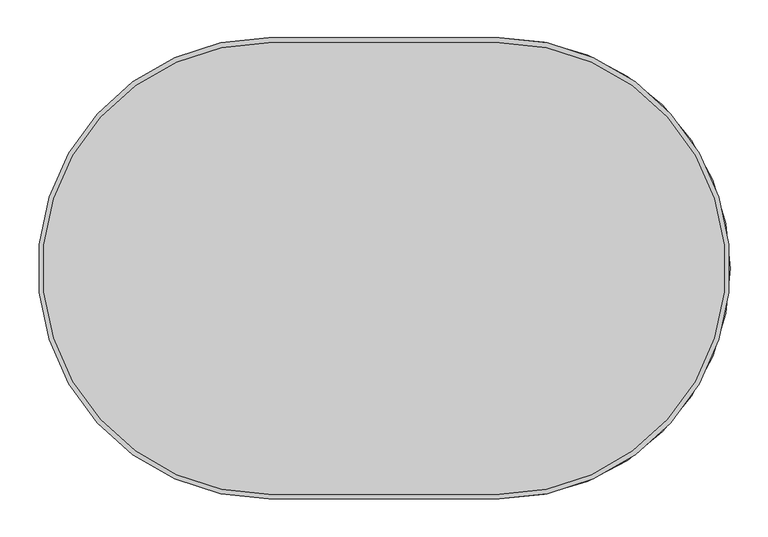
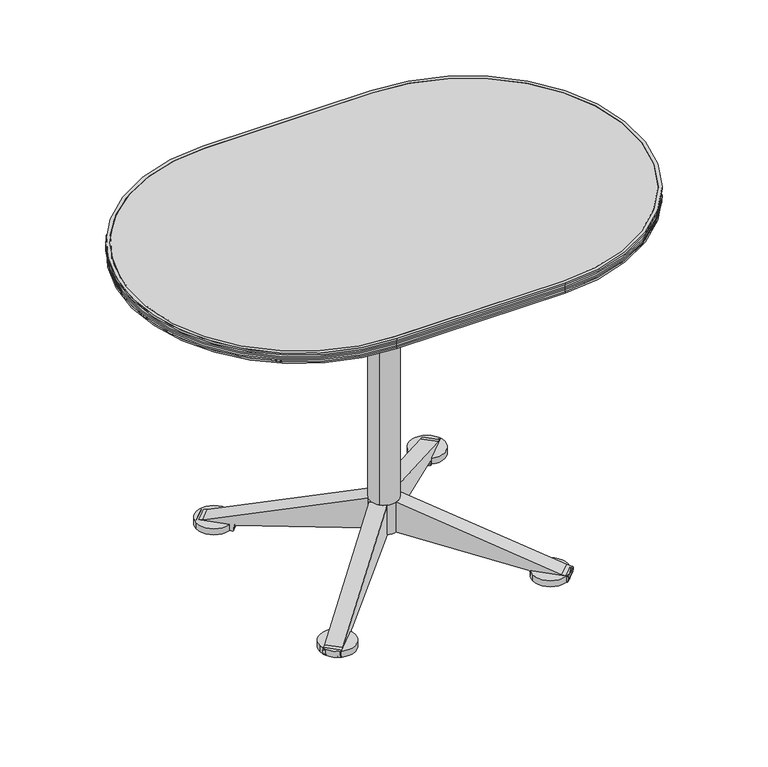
"""IFC4 building model written with IfcOpenShell, lengths in millimetres: furniture geometry, Coalesse_AM_Table_Conference_Ballet_Side : Racetrack - Glide."""

from ifc_helpers import new_model, si_unit, point, frame, frame_2d, origin, origin_with_axes, place, context, project, spatial, polyline, circle_curve, trimmed, segment, composite_curve, outline, extrude, source, transform, mapped, element, save
from ifc_brep_helpers import plane_surface, cylinder_surface, revolved_surface, advanced_brep


def furniture_3e3b4661(model_context):
    return source(origin(), model_context, "Body", "SolidModel", [
        extrude(outline(composite_curve([segment(polyline([(-37.2834365, 26.9246599), (-26.8661847, 37.3419116)]), True, "CONTINUOUS"), segment(trimmed(circle_curve(frame_2d((0.0745836, 10.4011432)), 38.1), [point((-26.8661847, 37.3419116))], [point((27.015352, 37.3419116))], False, "CARTESIAN"), True, "CONTINUOUS"), segment(polyline([(27.015352, 37.3419116), (38.9313594, 25.4259042)]), True, "CONTINUOUS"), segment(trimmed(circle_curve(frame_2d((13.4893466, -0.0161085)), 35.9804395), [point((38.9313594, 25.4259042))], [point((38.9313594, -25.4581212))], False, "CARTESIAN"), True, "CONTINUOUS"), segment(polyline([(38.9313594, -25.4581212), (27.015352, -37.3741286)]), True, "CONTINUOUS"), segment(trimmed(circle_curve(frame_2d((0.0745836, -10.4333602)), 38.1), [point((27.015352, -37.3741286))], [point((-26.8661847, -37.3741286))], False, "CARTESIAN"), True, "CONTINUOUS"), segment(polyline([(-26.8661847, -37.3741286), (-37.2834365, -26.9568769)]), True, "CONTINUOUS"), segment(trimmed(circle_curve(frame_2d((-10.3426681, -0.0161085)), 38.1), [point((-37.2834365, -26.9568769))], [point((-37.2834365, 26.9246599))], False, "CARTESIAN"), True, "CONTINUOUS")], self_intersect=False)), frame((0.0, 0.0, 536.3169247), z_axis=(0.0, 0.0, 1.0), x_axis=(1.0, 0.0, 0.0)), (0.0, 0.0, 1.0), 50.3081696),
        extrude(outline(composite_curve([segment(polyline([(-81.1409418, 49.3084633), (-49.5692956, 80.8801095)]), True, "CONTINUOUS"), segment(trimmed(circle_curve(frame_2d((0.0, 156.1108358)), 90.0931587), [point((-49.5692956, 80.8801095))], [point((49.871233, 81.0799264))], True, "CARTESIAN"), True, "CONTINUOUS"), segment(polyline([(49.871233, 81.0799264), (81.1309866, 49.8201728)]), True, "CONTINUOUS"), segment(trimmed(circle_curve(frame_2d((153.3620811, 0.0)), 87.7461145), [point((81.1309866, 49.8201728))], [point((81.7629451, -50.7241989))], True, "CARTESIAN"), True, "CONTINUOUS"), segment(polyline([(81.7629451, -50.7241989), (50.5881651, -81.8989789)]), True, "CONTINUOUS"), segment(trimmed(circle_curve(frame_2d((0.0, -154.7295322)), 88.6761069), [point((50.5881651, -81.8989789))], [point((-51.0893198, -82.2496499))], True, "CARTESIAN"), True, "CONTINUOUS"), segment(polyline([(-51.0893198, -82.2496499), (-82.3248918, -51.014078)]), True, "CONTINUOUS"), segment(trimmed(circle_curve(frame_2d((-153.9959305, 0.0)), 87.9725749), [point((-82.3248918, -51.014078))], [point((-81.1409418, 49.3084633))], True, "CARTESIAN"), True, "CONTINUOUS")], self_intersect=False)), frame((0.0, 0.0, 563.948073), z_axis=(0.0, 0.0, 1.0), x_axis=(1.0, 0.0, 0.0)), (0.0, 0.0, 1.0), 22.6770213),
        extrude(outline(composite_curve([segment(polyline([(114.3, 0.0), (115.2263736, -5.2537258)]), True, "CONTINUOUS"), segment(trimmed(circle_curve(frame_2d((109.4080133, -6.2796597)), 5.9081179), [point((115.2263736, -5.2537258))], [point((112.3666622, -11.3935872))], False, "CARTESIAN"), True, "CONTINUOUS"), segment(trimmed(circle_curve(frame_2d((-123.1481635, 395.6860679)), 470.2989248), [point((112.3666622, -11.3935872))], [point((-41.1216208, -67.404339))], False, "CARTESIAN"), True, "CONTINUOUS"), segment(trimmed(circle_curve(frame_2d((-123.1481635, 395.6860679)), 470.2989248), [point((-41.1216208, -67.404339))], [point((-66.3652264, -71.172344))], False, "CARTESIAN"), True, "CONTINUOUS"), segment(trimmed(circle_curve(frame_2d((-64.5887584, -85.7781231)), 14.7134164), [point((-66.3652264, -71.172344))], [point((-76.9601862, -77.8136775))], True, "CARTESIAN"), True, "CONTINUOUS"), segment(trimmed(circle_curve(frame_2d((-64.5887584, -85.7781231)), 14.7134164), [point((-76.9601862, -77.8136775))], [point((-79.0764227, -88.3456516))], True, "CARTESIAN"), True, "CONTINUOUS"), segment(trimmed(circle_curve(frame_2d((-82.4829244, -88.9493576)), 3.4595829), [point((-79.0764227, -88.3456516))], [point((-81.6450497, -92.3059452))], False, "CARTESIAN"), True, "CONTINUOUS"), segment(polyline([(-81.6450497, -92.3059452), (-160.9573766, -92.3059452)]), True, "CONTINUOUS"), segment(trimmed(circle_curve(frame_2d((-160.119502, -88.9493576)), 3.4595829), [point((-160.9573766, -92.3059452))], [point((-163.5260036, -88.3456516))], False, "CARTESIAN"), True, "CONTINUOUS"), segment(trimmed(circle_curve(frame_2d((-178.0136679, -85.7781231)), 14.7134164), [point((-163.5260036, -88.3456516))], [point((-165.6422401, -77.8136775))], True, "CARTESIAN"), True, "CONTINUOUS"), segment(trimmed(circle_curve(frame_2d((-178.0136679, -85.7781231)), 14.7134164), [point((-165.6422401, -77.8136775))], [point((-176.2372, -71.172344))], True, "CARTESIAN"), True, "CONTINUOUS"), segment(trimmed(circle_curve(frame_2d((-119.4542628, 395.6860679)), 470.2989248), [point((-176.2372, -71.172344))], [point((-201.4808056, -67.404339))], False, "CARTESIAN"), True, "CONTINUOUS"), segment(trimmed(circle_curve(frame_2d((-119.4542628, 395.6860679)), 470.2989248), [point((-201.4808056, -67.404339))], [point((-354.9690885, -11.3935872))], False, "CARTESIAN"), True, "CONTINUOUS"), segment(trimmed(circle_curve(frame_2d((-352.0104397, -6.2796597)), 5.9081179), [point((-354.9690885, -11.3935872))], [point((-357.8288, -5.2537258))], False, "CARTESIAN"), True, "CONTINUOUS"), segment(polyline([(-357.8288, -5.2537258), (-356.9024264, 0.0), (-242.6024263, 0.0)]), True, "CONTINUOUS"), segment(trimmed(circle_curve(frame_2d((-184.587638, 17.529313)), 60.6052183), [point((-242.6024263, 0.0))], [point((-195.8254097, -42.0249058))], True, "CARTESIAN"), True, "CONTINUOUS"), segment(trimmed(circle_curve(frame_2d((-133.7603939, 286.8867003)), 334.7161645), [point((-195.8254097, -42.0249058))], [point((-152.4418907, -47.3077229))], True, "CARTESIAN"), True, "CONTINUOUS"), segment(trimmed(circle_curve(frame_2d((-151.7916573, -35.6756582)), 11.6502245), [point((-152.4418907, -47.3077229))], [point((-142.023608, -42.0249058))], True, "CARTESIAN"), True, "CONTINUOUS"), segment(polyline([(-142.023608, -42.0249058), (-100.5788184, -42.0249058)]), True, "CONTINUOUS"), segment(trimmed(circle_curve(frame_2d((-90.810769, -35.6756582)), 11.6502245), [point((-100.5788184, -42.0249058))], [point((-90.1605356, -47.3077229))], True, "CARTESIAN"), True, "CONTINUOUS"), segment(trimmed(circle_curve(frame_2d((-108.8420324, 286.8867003)), 334.7161645), [point((-90.1605356, -47.3077229))], [point((-46.7770167, -42.0249058))], True, "CARTESIAN"), True, "CONTINUOUS"), segment(trimmed(circle_curve(frame_2d((-58.0147883, 17.529313)), 60.6052183), [point((-46.7770167, -42.0249058))], [point((0.0, 0.0))], True, "CARTESIAN"), True, "CONTINUOUS"), segment(polyline([(0.0, 0.0), (114.3, 0.0)]), True, "CONTINUOUS")], self_intersect=False)), frame((-101.4283173, 70.1175035, 628.65), z_axis=(0.7071067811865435, 0.7071067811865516, 0.0), x_axis=(-0.7071067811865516, 0.7071067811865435, 0.0)), (0.0, 0.0, 1.0), 44.2801776),
        extrude(outline(composite_curve([segment(polyline([(114.3, 0.0), (115.2263736, -5.2537258)]), True, "CONTINUOUS"), segment(trimmed(circle_curve(frame_2d((109.4080133, -6.2796597)), 5.9081179), [point((115.2263736, -5.2537258))], [point((112.3666622, -11.3935872))], False, "CARTESIAN"), True, "CONTINUOUS"), segment(trimmed(circle_curve(frame_2d((-123.1481635, 395.6860679)), 470.2989248), [point((112.3666622, -11.3935872))], [point((-41.1216208, -67.404339))], False, "CARTESIAN"), True, "CONTINUOUS"), segment(trimmed(circle_curve(frame_2d((-123.1481635, 395.6860679)), 470.2989248), [point((-41.1216208, -67.404339))], [point((-66.3652264, -71.172344))], False, "CARTESIAN"), True, "CONTINUOUS"), segment(trimmed(circle_curve(frame_2d((-64.5887584, -85.7781231)), 14.7134164), [point((-66.3652264, -71.172344))], [point((-76.9601862, -77.8136775))], True, "CARTESIAN"), True, "CONTINUOUS"), segment(trimmed(circle_curve(frame_2d((-64.5887584, -85.7781231)), 14.7134164), [point((-76.9601862, -77.8136775))], [point((-79.0764227, -88.3456516))], True, "CARTESIAN"), True, "CONTINUOUS"), segment(trimmed(circle_curve(frame_2d((-82.4829244, -88.9493576)), 3.4595829), [point((-79.0764227, -88.3456516))], [point((-81.6450497, -92.3059452))], False, "CARTESIAN"), True, "CONTINUOUS"), segment(polyline([(-81.6450497, -92.3059452), (-160.9573766, -92.3059452)]), True, "CONTINUOUS"), segment(trimmed(circle_curve(frame_2d((-160.119502, -88.9493576)), 3.4595829), [point((-160.9573766, -92.3059452))], [point((-163.5260036, -88.3456516))], False, "CARTESIAN"), True, "CONTINUOUS"), segment(trimmed(circle_curve(frame_2d((-178.0136679, -85.7781231)), 14.7134164), [point((-163.5260036, -88.3456516))], [point((-165.6422401, -77.8136775))], True, "CARTESIAN"), True, "CONTINUOUS"), segment(trimmed(circle_curve(frame_2d((-178.0136679, -85.7781231)), 14.7134164), [point((-165.6422401, -77.8136775))], [point((-176.2372, -71.172344))], True, "CARTESIAN"), True, "CONTINUOUS"), segment(trimmed(circle_curve(frame_2d((-119.4542628, 395.6860679)), 470.2989248), [point((-176.2372, -71.172344))], [point((-201.4808056, -67.404339))], False, "CARTESIAN"), True, "CONTINUOUS"), segment(trimmed(circle_curve(frame_2d((-119.4542628, 395.6860679)), 470.2989248), [point((-201.4808056, -67.404339))], [point((-354.9690885, -11.3935872))], False, "CARTESIAN"), True, "CONTINUOUS"), segment(trimmed(circle_curve(frame_2d((-352.0104397, -6.2796597)), 5.9081179), [point((-354.9690885, -11.3935872))], [point((-357.8288, -5.2537258))], False, "CARTESIAN"), True, "CONTINUOUS"), segment(polyline([(-357.8288, -5.2537258), (-356.9024264, 0.0), (-242.6024263, 0.0)]), True, "CONTINUOUS"), segment(trimmed(circle_curve(frame_2d((-184.587638, 17.529313)), 60.6052183), [point((-242.6024263, 0.0))], [point((-195.8254097, -42.0249058))], True, "CARTESIAN"), True, "CONTINUOUS"), segment(trimmed(circle_curve(frame_2d((-133.7603939, 286.8867003)), 334.7161645), [point((-195.8254097, -42.0249058))], [point((-152.4418907, -47.3077229))], True, "CARTESIAN"), True, "CONTINUOUS"), segment(trimmed(circle_curve(frame_2d((-151.7916573, -35.6756582)), 11.6502245), [point((-152.4418907, -47.3077229))], [point((-142.023608, -42.0249058))], True, "CARTESIAN"), True, "CONTINUOUS"), segment(polyline([(-142.023608, -42.0249058), (-100.5788184, -42.0249058)]), True, "CONTINUOUS"), segment(trimmed(circle_curve(frame_2d((-90.810769, -35.6756582)), 11.6502245), [point((-100.5788184, -42.0249058))], [point((-90.1605356, -47.3077229))], True, "CARTESIAN"), True, "CONTINUOUS"), segment(trimmed(circle_curve(frame_2d((-108.8420324, 286.8867003)), 334.7161645), [point((-90.1605356, -47.3077229))], [point((-46.7770167, -42.0249058))], True, "CARTESIAN"), True, "CONTINUOUS"), segment(trimmed(circle_curve(frame_2d((-58.0147883, 17.529313)), 60.6052183), [point((-46.7770167, -42.0249058))], [point((0.0, 0.0))], True, "CARTESIAN"), True, "CONTINUOUS"), segment(polyline([(0.0, 0.0), (114.3, 0.0)]), True, "CONTINUOUS")], self_intersect=False)), frame((-70.1175035, -101.4283173, 628.65), z_axis=(-0.7071067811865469, 0.7071067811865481, 0.0), x_axis=(-0.7071067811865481, -0.7071067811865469, 0.0)), (0.0, 0.0, 1.0), 44.2801776),
        extrude(outline(composite_curve([segment(trimmed(circle_curve(frame_2d((-194.715793, 197.3207687)), 31.75), [point((-226.465793, 197.3207687))], [point((-162.965793, 197.3207687))], False, "CARTESIAN"), True, "CONTINUOUS"), segment(trimmed(circle_curve(frame_2d((-194.715793, 197.3207687)), 31.75), [point((-162.965793, 197.3207687))], [point((-226.465793, 197.3207687))], False, "CARTESIAN"), True, "CONTINUOUS")], self_intersect=False)), frame((0.0, 0.0, 4.2904479), z_axis=(0.0, 0.0, 1.0), x_axis=(1.0, 0.0, 0.0)), (0.0, 0.0, 1.0), 11.3833531),
        extrude(outline(composite_curve([segment(trimmed(circle_curve(frame_2d((191.7194605, 196.5270187)), 31.75), [point((159.9694605, 196.5270187))], [point((223.4694605, 196.5270187))], False, "CARTESIAN"), True, "CONTINUOUS"), segment(trimmed(circle_curve(frame_2d((191.7194605, 196.5270187)), 31.75), [point((223.4694605, 196.5270187))], [point((159.9694605, 196.5270187))], False, "CARTESIAN"), True, "CONTINUOUS")], self_intersect=False)), frame((0.0, 0.0, 4.2904479), z_axis=(0.0, 0.0, 1.0), x_axis=(1.0, 0.0, 0.0)), (0.0, 0.0, 1.0), 11.3833531),
        extrude(outline(composite_curve([segment(trimmed(circle_curve(frame_2d((-194.715793, -191.2787692)), 31.75), [point((-226.465793, -191.2787692))], [point((-162.965793, -191.2787692))], False, "CARTESIAN"), True, "CONTINUOUS"), segment(trimmed(circle_curve(frame_2d((-194.715793, -191.2787692)), 31.75), [point((-162.965793, -191.2787692))], [point((-226.465793, -191.2787692))], False, "CARTESIAN"), True, "CONTINUOUS")], self_intersect=False)), frame((0.0, 0.0, 4.2904479), z_axis=(0.0, 0.0, 1.0), x_axis=(1.0, 0.0, 0.0)), (0.0, 0.0, 1.0), 11.3833531),
        extrude(outline(composite_curve([segment(trimmed(circle_curve(frame_2d((191.7194605, -190.4850192)), 31.75), [point((159.9694605, -190.4850192))], [point((223.4694605, -190.4850192))], False, "CARTESIAN"), True, "CONTINUOUS"), segment(trimmed(circle_curve(frame_2d((191.7194605, -190.4850192)), 31.75), [point((223.4694605, -190.4850192))], [point((159.9694605, -190.4850192))], False, "CARTESIAN"), True, "CONTINUOUS")], self_intersect=False)), frame((0.0, 0.0, 4.2904479), z_axis=(0.0, 0.0, 1.0), x_axis=(1.0, 0.0, 0.0)), (0.0, 0.0, 1.0), 11.3833531),
        extrude(outline(composite_curve([segment(polyline([(-57.749273, 0.0), (0.0, 0.0), (-90.9931074, -269.8641919), (-92.3030079, -279.1846177)]), True, "CONTINUOUS"), segment(trimmed(circle_curve(frame_2d((-93.9206951, -278.9572666)), 1.6335852), [point((-92.3030079, -279.1846177))], [point((-93.8206014, -280.5877823))], False, "CARTESIAN"), True, "CONTINUOUS"), segment(trimmed(circle_curve(frame_2d((-95.8523928, -247.4901147)), 33.1599725), [point((-93.8206014, -280.5877823))], [point((-101.682402, -280.1335639))], False, "CARTESIAN"), True, "CONTINUOUS"), segment(trimmed(circle_curve(frame_2d((-101.2796868, -277.8786768)), 2.2905666), [point((-101.682402, -280.1335639))], [point((-103.5674671, -277.7657306))], False, "CARTESIAN"), True, "CONTINUOUS"), segment(polyline([(-103.5674671, -277.7657306), (-103.5674671, -222.4322812)]), True, "CONTINUOUS"), segment(trimmed(circle_curve(frame_2d((-100.6154331, -221.9840334)), 2.9858719), [point((-103.5674671, -222.4322812))], [point((-100.2998684, -219.0148838))], False, "CARTESIAN"), True, "CONTINUOUS"), segment(trimmed(circle_curve(frame_2d((-98.3053249, -200.2482144)), 18.872363), [point((-100.2998684, -219.0148838))], [point((-94.5016021, -218.7332835))], True, "CARTESIAN"), True, "CONTINUOUS"), segment(trimmed(circle_curve(frame_2d((-95.1495986, -215.5841949)), 3.2150673), [point((-94.5016021, -218.7332835))], [point((-91.9741141, -216.0871422))], True, "CARTESIAN"), True, "CONTINUOUS"), segment(polyline([(-91.9741141, -216.0871422), (-57.749273, 0.0)]), True, "CONTINUOUS")], self_intersect=False)), frame((-23.5273141, 7.7834997, 107.857915), z_axis=(0.7071067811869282, 0.707106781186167, 0.0), x_axis=(0.0, 0.0, 1.0)), (0.0, 0.0, 1.0), 29.2174476),
        extrude(outline(composite_curve([segment(polyline([(-57.749273, 44.2801775), (-91.9741141, 260.3673198)]), True, "CONTINUOUS"), segment(trimmed(circle_curve(frame_2d((-95.1495986, 259.8643724)), 3.2150673), [point((-91.9741141, 260.3673198))], [point((-94.5016021, 263.013461))], True, "CARTESIAN"), True, "CONTINUOUS"), segment(trimmed(circle_curve(frame_2d((-98.3053249, 244.5283919)), 18.872363), [point((-94.5016021, 263.013461))], [point((-100.2998684, 263.2950613))], True, "CARTESIAN"), True, "CONTINUOUS"), segment(trimmed(circle_curve(frame_2d((-100.6154331, 266.2642109)), 2.9858719), [point((-100.2998684, 263.2950613))], [point((-103.5674671, 266.7124587))], False, "CARTESIAN"), True, "CONTINUOUS"), segment(polyline([(-103.5674671, 266.7124587), (-103.5674671, 322.0459081)]), True, "CONTINUOUS"), segment(trimmed(circle_curve(frame_2d((-101.2796868, 322.1588543)), 2.2905666), [point((-103.5674671, 322.0459081))], [point((-101.682402, 324.4137415))], False, "CARTESIAN"), True, "CONTINUOUS"), segment(trimmed(circle_curve(frame_2d((-95.8523928, 291.7702923)), 33.1599725), [point((-101.682402, 324.4137415))], [point((-93.8206014, 324.8679598))], False, "CARTESIAN"), True, "CONTINUOUS"), segment(trimmed(circle_curve(frame_2d((-93.9206951, 323.2374442)), 1.6335852), [point((-93.8206014, 324.8679598))], [point((-92.3030079, 323.4647953))], False, "CARTESIAN"), True, "CONTINUOUS"), segment(polyline([(-92.3030079, 323.4647953), (-90.9931074, 314.1443694), (0.0, 44.2801775), (-57.749273, 44.2801775)]), True, "CONTINUOUS")], self_intersect=False)), frame((-23.5273141, 7.7834997, 107.857915), z_axis=(0.7071067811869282, 0.707106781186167, 0.0), x_axis=(0.0, 0.0, 1.0)), (0.0, 0.0, 1.0), 29.2174476),
        extrude(outline(composite_curve([segment(polyline([(-57.749273, 0.0), (0.0, 0.0), (-90.9931074, -269.8641919), (-92.3030079, -279.1846177)]), True, "CONTINUOUS"), segment(trimmed(circle_curve(frame_2d((-93.9206951, -278.9572666)), 1.6335852), [point((-92.3030079, -279.1846177))], [point((-93.8206014, -280.5877823))], False, "CARTESIAN"), True, "CONTINUOUS"), segment(trimmed(circle_curve(frame_2d((-95.8523928, -247.4901147)), 33.1599725), [point((-93.8206014, -280.5877823))], [point((-101.682402, -280.1335639))], False, "CARTESIAN"), True, "CONTINUOUS"), segment(trimmed(circle_curve(frame_2d((-101.2796868, -277.8786768)), 2.2905666), [point((-101.682402, -280.1335639))], [point((-103.5674671, -277.7657306))], False, "CARTESIAN"), True, "CONTINUOUS"), segment(polyline([(-103.5674671, -277.7657306), (-103.5674671, -222.4322812)]), True, "CONTINUOUS"), segment(trimmed(circle_curve(frame_2d((-100.6154331, -221.9840334)), 2.9858719), [point((-103.5674671, -222.4322812))], [point((-100.2998684, -219.0148838))], False, "CARTESIAN"), True, "CONTINUOUS"), segment(trimmed(circle_curve(frame_2d((-98.3053249, -200.2482144)), 18.872363), [point((-100.2998684, -219.0148838))], [point((-94.5016021, -218.7332835))], True, "CARTESIAN"), True, "CONTINUOUS"), segment(trimmed(circle_curve(frame_2d((-95.1495986, -215.5841949)), 3.2150673), [point((-94.5016021, -218.7332835))], [point((-91.9741141, -216.0871422))], True, "CARTESIAN"), True, "CONTINUOUS"), segment(polyline([(-91.9741141, -216.0871422), (-57.749273, 0.0)]), True, "CONTINUOUS")], self_intersect=False)), frame((-7.7834997, -23.5273141, 107.857915), z_axis=(-0.7071067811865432, 0.7071067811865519, 0.0), x_axis=(0.0, 0.0, 1.0)), (0.0, 0.0, 1.0), 29.2174476),
        extrude(outline(composite_curve([segment(polyline([(-57.749273, 44.2801775), (-91.9741141, 260.3673198)]), True, "CONTINUOUS"), segment(trimmed(circle_curve(frame_2d((-95.1495986, 259.8643724)), 3.2150673), [point((-91.9741141, 260.3673198))], [point((-94.5016021, 263.013461))], True, "CARTESIAN"), True, "CONTINUOUS"), segment(trimmed(circle_curve(frame_2d((-98.3053249, 244.5283919)), 18.872363), [point((-94.5016021, 263.013461))], [point((-100.2998684, 263.2950613))], True, "CARTESIAN"), True, "CONTINUOUS"), segment(trimmed(circle_curve(frame_2d((-100.6154331, 266.2642109)), 2.9858719), [point((-100.2998684, 263.2950613))], [point((-103.5674671, 266.7124587))], False, "CARTESIAN"), True, "CONTINUOUS"), segment(polyline([(-103.5674671, 266.7124587), (-103.5674671, 322.0459081)]), True, "CONTINUOUS"), segment(trimmed(circle_curve(frame_2d((-101.2796868, 322.1588543)), 2.2905666), [point((-103.5674671, 322.0459081))], [point((-101.682402, 324.4137415))], False, "CARTESIAN"), True, "CONTINUOUS"), segment(trimmed(circle_curve(frame_2d((-95.8523928, 291.7702923)), 33.1599725), [point((-101.682402, 324.4137415))], [point((-93.8206014, 324.8679598))], False, "CARTESIAN"), True, "CONTINUOUS"), segment(trimmed(circle_curve(frame_2d((-93.9206951, 323.2374442)), 1.6335852), [point((-93.8206014, 324.8679598))], [point((-92.3030079, 323.4647953))], False, "CARTESIAN"), True, "CONTINUOUS"), segment(polyline([(-92.3030079, 323.4647953), (-90.9931074, 314.1443694), (0.0, 44.2801775), (-57.749273, 44.2801775)]), True, "CONTINUOUS")], self_intersect=False)), frame((-7.7834997, -23.5273141, 107.857915), z_axis=(-0.7071067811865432, 0.7071067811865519, 0.0), x_axis=(0.0, 0.0, 1.0)), (0.0, 0.0, 1.0), 29.2174476),
        extrude(outline(composite_curve([segment(polyline([(-57.749273, 0.0), (0.0, 0.0), (-90.9931074, -269.8641919), (-92.3030079, -279.1846177)]), True, "CONTINUOUS"), segment(trimmed(circle_curve(frame_2d((-93.9206951, -278.9572666)), 1.6335852), [point((-92.3030079, -279.1846177))], [point((-93.8206014, -280.5877823))], False, "CARTESIAN"), True, "CONTINUOUS"), segment(trimmed(circle_curve(frame_2d((-95.8523928, -247.4901147)), 33.1599725), [point((-93.8206014, -280.5877823))], [point((-101.682402, -280.1335639))], False, "CARTESIAN"), True, "CONTINUOUS"), segment(trimmed(circle_curve(frame_2d((-101.2796868, -277.8786768)), 2.2905666), [point((-101.682402, -280.1335639))], [point((-103.5674671, -277.7657306))], False, "CARTESIAN"), True, "CONTINUOUS"), segment(polyline([(-103.5674671, -277.7657306), (-103.5674671, -222.4322812)]), True, "CONTINUOUS"), segment(trimmed(circle_curve(frame_2d((-100.6154331, -221.9840334)), 2.9858719), [point((-103.5674671, -222.4322812))], [point((-100.2998684, -219.0148838))], False, "CARTESIAN"), True, "CONTINUOUS"), segment(trimmed(circle_curve(frame_2d((-98.3053249, -200.2482144)), 18.872363), [point((-100.2998684, -219.0148838))], [point((-94.5016021, -218.7332835))], True, "CARTESIAN"), True, "CONTINUOUS"), segment(trimmed(circle_curve(frame_2d((-95.1495986, -215.5841949)), 3.2150673), [point((-94.5016021, -218.7332835))], [point((-91.9741141, -216.0871422))], True, "CARTESIAN"), True, "CONTINUOUS"), segment(polyline([(-91.9741141, -216.0871422), (-57.749273, 0.0)]), True, "CONTINUOUS")], self_intersect=False)), frame((-23.5273141, 7.7834997, 107.857915), z_axis=(0.7071067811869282, 0.707106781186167, 0.0), x_axis=(0.0, 0.0, 1.0)), (0.0, 0.0, 1.0), 29.2174476),
        extrude(outline(composite_curve([segment(polyline([(-57.749273, 44.2801775), (-91.9741141, 260.3673198)]), True, "CONTINUOUS"), segment(trimmed(circle_curve(frame_2d((-95.1495986, 259.8643724)), 3.2150673), [point((-91.9741141, 260.3673198))], [point((-94.5016021, 263.013461))], True, "CARTESIAN"), True, "CONTINUOUS"), segment(trimmed(circle_curve(frame_2d((-98.3053249, 244.5283919)), 18.872363), [point((-94.5016021, 263.013461))], [point((-100.2998684, 263.2950613))], True, "CARTESIAN"), True, "CONTINUOUS"), segment(trimmed(circle_curve(frame_2d((-100.6154331, 266.2642109)), 2.9858719), [point((-100.2998684, 263.2950613))], [point((-103.5674671, 266.7124587))], False, "CARTESIAN"), True, "CONTINUOUS"), segment(polyline([(-103.5674671, 266.7124587), (-103.5674671, 322.0459081)]), True, "CONTINUOUS"), segment(trimmed(circle_curve(frame_2d((-101.2796868, 322.1588543)), 2.2905666), [point((-103.5674671, 322.0459081))], [point((-101.682402, 324.4137415))], False, "CARTESIAN"), True, "CONTINUOUS"), segment(trimmed(circle_curve(frame_2d((-95.8523928, 291.7702923)), 33.1599725), [point((-101.682402, 324.4137415))], [point((-93.8206014, 324.8679598))], False, "CARTESIAN"), True, "CONTINUOUS"), segment(trimmed(circle_curve(frame_2d((-93.9206951, 323.2374442)), 1.6335852), [point((-93.8206014, 324.8679598))], [point((-92.3030079, 323.4647953))], False, "CARTESIAN"), True, "CONTINUOUS"), segment(polyline([(-92.3030079, 323.4647953), (-90.9931074, 314.1443694), (0.0, 44.2801775), (-57.749273, 44.2801775)]), True, "CONTINUOUS")], self_intersect=False)), frame((-23.5273141, 7.7834997, 107.857915), z_axis=(0.7071067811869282, 0.707106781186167, 0.0), x_axis=(0.0, 0.0, 1.0)), (0.0, 0.0, 1.0), 29.2174476),
        extrude(outline(composite_curve([segment(polyline([(-57.749273, 0.0), (0.0, 0.0), (-90.9931074, -269.8641919), (-92.3030079, -279.1846177)]), True, "CONTINUOUS"), segment(trimmed(circle_curve(frame_2d((-93.9206951, -278.9572666)), 1.6335852), [point((-92.3030079, -279.1846177))], [point((-93.8206014, -280.5877823))], False, "CARTESIAN"), True, "CONTINUOUS"), segment(trimmed(circle_curve(frame_2d((-95.8523928, -247.4901147)), 33.1599725), [point((-93.8206014, -280.5877823))], [point((-101.682402, -280.1335639))], False, "CARTESIAN"), True, "CONTINUOUS"), segment(trimmed(circle_curve(frame_2d((-101.2796868, -277.8786768)), 2.2905666), [point((-101.682402, -280.1335639))], [point((-103.5674671, -277.7657306))], False, "CARTESIAN"), True, "CONTINUOUS"), segment(polyline([(-103.5674671, -277.7657306), (-103.5674671, -222.4322812)]), True, "CONTINUOUS"), segment(trimmed(circle_curve(frame_2d((-100.6154331, -221.9840334)), 2.9858719), [point((-103.5674671, -222.4322812))], [point((-100.2998684, -219.0148838))], False, "CARTESIAN"), True, "CONTINUOUS"), segment(trimmed(circle_curve(frame_2d((-98.3053249, -200.2482144)), 18.872363), [point((-100.2998684, -219.0148838))], [point((-94.5016021, -218.7332835))], True, "CARTESIAN"), True, "CONTINUOUS"), segment(trimmed(circle_curve(frame_2d((-95.1495986, -215.5841949)), 3.2150673), [point((-94.5016021, -218.7332835))], [point((-91.9741141, -216.0871422))], True, "CARTESIAN"), True, "CONTINUOUS"), segment(polyline([(-91.9741141, -216.0871422), (-57.749273, 0.0)]), True, "CONTINUOUS")], self_intersect=False)), frame((-7.7834997, -23.5273141, 107.857915), z_axis=(-0.7071067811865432, 0.7071067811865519, 0.0), x_axis=(0.0, 0.0, 1.0)), (0.0, 0.0, 1.0), 29.2174476),
        extrude(outline(composite_curve([segment(polyline([(-57.749273, 44.2801775), (-91.9741141, 260.3673198)]), True, "CONTINUOUS"), segment(trimmed(circle_curve(frame_2d((-95.1495986, 259.8643724)), 3.2150673), [point((-91.9741141, 260.3673198))], [point((-94.5016021, 263.013461))], True, "CARTESIAN"), True, "CONTINUOUS"), segment(trimmed(circle_curve(frame_2d((-98.3053249, 244.5283919)), 18.872363), [point((-94.5016021, 263.013461))], [point((-100.2998684, 263.2950613))], True, "CARTESIAN"), True, "CONTINUOUS"), segment(trimmed(circle_curve(frame_2d((-100.6154331, 266.2642109)), 2.9858719), [point((-100.2998684, 263.2950613))], [point((-103.5674671, 266.7124587))], False, "CARTESIAN"), True, "CONTINUOUS"), segment(polyline([(-103.5674671, 266.7124587), (-103.5674671, 322.0459081)]), True, "CONTINUOUS"), segment(trimmed(circle_curve(frame_2d((-101.2796868, 322.1588543)), 2.2905666), [point((-103.5674671, 322.0459081))], [point((-101.682402, 324.4137415))], False, "CARTESIAN"), True, "CONTINUOUS"), segment(trimmed(circle_curve(frame_2d((-95.8523928, 291.7702923)), 33.1599725), [point((-101.682402, 324.4137415))], [point((-93.8206014, 324.8679598))], False, "CARTESIAN"), True, "CONTINUOUS"), segment(trimmed(circle_curve(frame_2d((-93.9206951, 323.2374442)), 1.6335852), [point((-93.8206014, 324.8679598))], [point((-92.3030079, 323.4647953))], False, "CARTESIAN"), True, "CONTINUOUS"), segment(polyline([(-92.3030079, 323.4647953), (-90.9931074, 314.1443694), (0.0, 44.2801775), (-57.749273, 44.2801775)]), True, "CONTINUOUS")], self_intersect=False)), frame((-7.7834997, -23.5273141, 107.857915), z_axis=(-0.7071067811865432, 0.7071067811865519, 0.0), x_axis=(0.0, 0.0, 1.0)), (0.0, 0.0, 1.0), 29.2174476),
        extrude(outline(composite_curve([segment(trimmed(circle_curve(frame_2d((1.04e-05, -1.04e-05)), 25.3999999), [point((-17.9605018, -17.9605225))], [point((17.9605225, 17.9605018))], False, "CARTESIAN"), True, "CONTINUOUS"), segment(trimmed(circle_curve(frame_2d((1.04e-05, -1.04e-05)), 25.3999999), [point((17.9605225, 17.9605018))], [point((-17.9605018, -17.9605225))], False, "CARTESIAN"), True, "CONTINUOUS")], self_intersect=False)), frame((0.0, 0.0, 107.857915), z_axis=(0.0, 0.0, 1.0), x_axis=(1.0, 0.0, 0.0)), (0.0, 0.0, 1.0), 428.4590096),
        extrude(outline(composite_curve([segment(trimmed(circle_curve(frame_2d((192.2336051, -190.6461051)), 25.4), [point((174.2730929, -208.6066174))], [point((210.1941174, -172.6855929))], False, "CARTESIAN"), True, "CONTINUOUS"), segment(trimmed(circle_curve(frame_2d((192.2336051, -190.6461051)), 25.4), [point((210.1941174, -172.6855929))], [point((174.2730929, -208.6066174))], False, "CARTESIAN"), True, "CONTINUOUS")], self_intersect=False)), origin_with_axes(), (0.0, 0.0, 1.0), 4.2904479),
        extrude(outline(composite_curve([segment(trimmed(circle_curve(frame_2d((192.2336051, 196.9961051)), 25.4), [point((174.2730929, 179.0355929))], [point((210.1941174, 214.9566174))], False, "CARTESIAN"), True, "CONTINUOUS"), segment(trimmed(circle_curve(frame_2d((192.2336051, 196.9961051)), 25.4), [point((210.1941174, 214.9566174))], [point((174.2730929, 179.0355929))], False, "CARTESIAN"), True, "CONTINUOUS")], self_intersect=False)), origin_with_axes(), (0.0, 0.0, 1.0), 4.2904479),
        extrude(outline(composite_curve([segment(trimmed(circle_curve(frame_2d((-194.6148551, -191.4398551)), 25.4), [point((-212.5753674, -209.4003674))], [point((-176.6543429, -173.4793429))], False, "CARTESIAN"), True, "CONTINUOUS"), segment(trimmed(circle_curve(frame_2d((-194.6148551, -191.4398551)), 25.4), [point((-176.6543429, -173.4793429))], [point((-212.5753674, -209.4003674))], False, "CARTESIAN"), True, "CONTINUOUS")], self_intersect=False)), origin_with_axes(), (0.0, 0.0, 1.0), 4.2904479),
        extrude(outline(composite_curve([segment(trimmed(circle_curve(frame_2d((-194.2179801, 197.3929801)), 25.4), [point((-212.1784924, 179.4324679))], [point((-176.2574679, 215.3534924))], False, "CARTESIAN"), True, "CONTINUOUS"), segment(trimmed(circle_curve(frame_2d((-194.2179801, 197.3929801)), 25.4), [point((-176.2574679, 215.3534924))], [point((-212.1784924, 179.4324679))], False, "CARTESIAN"), True, "CONTINUOUS")], self_intersect=False)), origin_with_axes(), (0.0, 0.0, 1.0), 4.2904479),
        extrude(outline(composite_curve([segment(trimmed(circle_curve(frame_2d((1.04e-05, -1.04e-05)), 25.3999999), [point((-17.9605018, -17.9605225))], [point((17.9605225, 17.9605018))], False, "CARTESIAN"), True, "CONTINUOUS"), segment(trimmed(circle_curve(frame_2d((1.04e-05, -1.04e-05)), 25.3999999), [point((17.9605225, 17.9605018))], [point((-17.9605018, -17.9605225))], False, "CARTESIAN"), True, "CONTINUOUS")], self_intersect=False)), frame((0.0, 0.0, 50.8000015), z_axis=(0.0, 0.0, 1.0), x_axis=(1.0, 0.0, 0.0)), (0.0, 0.0, 1.0), 485.5169232),
        advanced_brep(
        [(-152.4001586, -304.7998993, 631.9011368), (-152.4001586, 304.8, 631.9011368), (-152.4001586, 304.8, 628.65), (-152.4001586, -304.7998993, 628.65), (-152.4001586, -301.6579433, 633.4335711), (-152.4001586, 301.6580441, 633.4335711), (-152.4001586, -304.7520483, 634.9903832), (-152.4001586, 304.752149, 634.9903832), (-152.4001586, -301.5051343, 636.574009), (-152.4001586, 301.505235, 636.574009), (-152.4001586, -304.80718, 638.2354473), (-152.4001586, 304.8072807, 638.2354473), (-152.4001586, -301.6739202, 639.7636402), (-152.4001586, 301.6740209, 639.7636402), (-152.4001586, -304.8209424, 641.3470778), (-152.4001586, 304.8210431, 641.3470778), (-152.4001586, -301.5928989, 642.9214998), (-152.4001586, 301.5929996, 642.9214998), (-152.4001586, -304.7998993, 644.5351157), (-152.4001586, 304.8, 644.5351157), (-152.4001586, -304.7998993, 647.7), (-152.4001586, 304.8, 647.7), (-152.4001586, -298.4497559, 628.65), (-152.4001586, 298.4498566, 628.65), (-152.4001586, 298.4498566, 647.7), (-152.4001586, -298.4497559, 647.7), (152.3998414, -304.7998993, 628.65), (152.3998414, -304.7998993, 631.9011368), (152.3998414, -301.6579433, 633.4335711), (152.3998414, -304.7520483, 634.9903832), (152.3998414, -301.5051343, 636.574009), (152.3998414, -304.80718, 638.2354473), (152.3998414, -301.6739202, 639.7636402), (152.3998414, -304.8209424, 641.3470778), (152.3998414, -301.5928989, 642.9214998), (152.3998414, -304.7998993, 644.5351157), (152.3998414, -304.7998993, 647.7), (152.3998414, -298.4497559, 647.7), (152.3998414, -298.4497559, 628.65), (152.3998414, 304.8, 631.9011368), (152.3998414, 304.8, 628.65), (152.3998414, 301.6580441, 633.4335711), (152.3998414, 304.752149, 634.9903832), (152.3998414, 301.505235, 636.574009), (152.3998414, 304.8072807, 638.2354473), (152.3998414, 301.6740209, 639.7636402), (152.3998414, 304.8210431, 641.3470778), (152.3998414, 301.5929996, 642.9214998), (152.3998414, 304.8, 644.5351157), (152.3998414, 304.8, 647.7), (152.3998414, 298.4498566, 628.65), (152.3998414, 298.4498566, 647.7)],
        [
            (0, 1, circle_curve(frame((-152.4001586, 5.04e-05, 631.9011368), z_axis=(0.0, 0.0, -1.0), x_axis=(0.0, 1.0, 0.0)), 304.7999496)),
            (1, 2),
            (2, 3, circle_curve(frame((-152.4001586, 5.04e-05, 628.65), z_axis=(0.0, 0.0, 1.0), x_axis=(0.0, 1.0, 0.0)), 304.7999496)),
            (3, 0),
            (4, 5, circle_curve(frame((-152.4001586, 5.04e-05, 633.4335711), z_axis=(0.0, 0.0, -1.0), x_axis=(0.0, 1.0, 0.0)), 301.6579937)),
            (5, 1),
            (0, 4),
            (6, 7, circle_curve(frame((-152.4001586, 5.04e-05, 634.9903832), z_axis=(0.0, 0.0, -1.0), x_axis=(0.0, 1.0, 0.0)), 304.7520987)),
            (7, 5),
            (4, 6),
            (8, 9, circle_curve(frame((-152.4001586, 5.04e-05, 636.574009), z_axis=(0.0, 0.0, -1.0), x_axis=(0.0, 1.0, 0.0)), 301.5051847)),
            (9, 7),
            (6, 8),
            (10, 11, circle_curve(frame((-152.4001586, 5.04e-05, 638.2354473), z_axis=(0.0, 0.0, -1.0), x_axis=(0.0, 1.0, 0.0)), 304.8072304)),
            (11, 9),
            (8, 10),
            (12, 13, circle_curve(frame((-152.4001586, 5.04e-05, 639.7636402), z_axis=(0.0, 0.0, -1.0), x_axis=(0.0, 1.0, 0.0)), 301.6739706)),
            (13, 11),
            (10, 12),
            (14, 15, circle_curve(frame((-152.4001586, 5.04e-05, 641.3470778), z_axis=(0.0, 0.0, -1.0), x_axis=(0.0, 1.0, 0.0)), 304.8209927)),
            (15, 13),
            (12, 14),
            (16, 17, circle_curve(frame((-152.4001586, 5.04e-05, 642.9214998), z_axis=(0.0, 0.0, -1.0), x_axis=(0.0, 1.0, 0.0)), 301.5929492)),
            (17, 15),
            (14, 16),
            (18, 19, circle_curve(frame((-152.4001586, 5.04e-05, 644.5351157), z_axis=(0.0, 0.0, -1.0), x_axis=(0.0, 1.0, 0.0)), 304.7999496)),
            (19, 17),
            (16, 18),
            (20, 21, circle_curve(frame((-152.4001586, 5.04e-05, 647.7), z_axis=(0.0, 0.0, -1.0), x_axis=(0.0, 1.0, 0.0)), 304.7999496)),
            (21, 19),
            (18, 20),
            (22, 23, circle_curve(frame((-152.4001586, 5.04e-05, 628.65), z_axis=(0.0, 0.0, -1.0), x_axis=(0.0, 1.0, 0.0)), 298.4498062)),
            (23, 24),
            (24, 25, circle_curve(frame((-152.4001586, 5.04e-05, 647.7), z_axis=(0.0, 0.0, 1.0), x_axis=(0.0, 1.0, 0.0)), 298.4498062)),
            (25, 22),
            (3, 26),
            (26, 27),
            (27, 0),
            (27, 28),
            (28, 4),
            (28, 29),
            (29, 6),
            (29, 30),
            (30, 8),
            (30, 31),
            (31, 10),
            (31, 32),
            (32, 12),
            (32, 33),
            (33, 14),
            (33, 34),
            (34, 16),
            (34, 35),
            (35, 18),
            (35, 36),
            (36, 20),
            (25, 37),
            (37, 38),
            (38, 22),
            (39, 27, circle_curve(frame((152.3998414, 5.04e-05, 631.9011368), z_axis=(0.0, 0.0, -1.0), x_axis=(0.0, -1.0, 0.0)), 304.7999496)),
            (26, 40, circle_curve(frame((152.3998414, 5.04e-05, 628.65), z_axis=(0.0, 0.0, 1.0), x_axis=(0.0, -1.0, 0.0)), 304.7999496)),
            (40, 39),
            (41, 28, circle_curve(frame((152.3998414, 5.04e-05, 633.4335711), z_axis=(0.0, 0.0, -1.0), x_axis=(0.0, -1.0, 0.0)), 301.6579937)),
            (39, 41),
            (42, 29, circle_curve(frame((152.3998414, 5.04e-05, 634.9903832), z_axis=(0.0, 0.0, -1.0), x_axis=(0.0, -1.0, 0.0)), 304.7520987)),
            (41, 42),
            (43, 30, circle_curve(frame((152.3998414, 5.04e-05, 636.574009), z_axis=(0.0, 0.0, -1.0), x_axis=(0.0, -1.0, 0.0)), 301.5051847)),
            (42, 43),
            (44, 31, circle_curve(frame((152.3998414, 5.04e-05, 638.2354473), z_axis=(0.0, 0.0, -1.0), x_axis=(0.0, -1.0, 0.0)), 304.8072304)),
            (43, 44),
            (45, 32, circle_curve(frame((152.3998414, 5.04e-05, 639.7636402), z_axis=(0.0, 0.0, -1.0), x_axis=(0.0, -1.0, 0.0)), 301.6739706)),
            (44, 45),
            (46, 33, circle_curve(frame((152.3998414, 5.04e-05, 641.3470778), z_axis=(0.0, 0.0, -1.0), x_axis=(0.0, -1.0, 0.0)), 304.8209927)),
            (45, 46),
            (47, 34, circle_curve(frame((152.3998414, 5.04e-05, 642.9214998), z_axis=(0.0, 0.0, -1.0), x_axis=(0.0, -1.0, 0.0)), 301.5929492)),
            (46, 47),
            (48, 35, circle_curve(frame((152.3998414, 5.04e-05, 644.5351157), z_axis=(0.0, 0.0, -1.0), x_axis=(0.0, -1.0, 0.0)), 304.7999496)),
            (47, 48),
            (49, 36, circle_curve(frame((152.3998414, 5.04e-05, 647.7), z_axis=(0.0, 0.0, -1.0), x_axis=(0.0, -1.0, 0.0)), 304.7999496)),
            (48, 49),
            (50, 38, circle_curve(frame((152.3998414, 5.04e-05, 628.65), z_axis=(0.0, 0.0, -1.0), x_axis=(0.0, -1.0, 0.0)), 298.4498062)),
            (37, 51, circle_curve(frame((152.3998414, 5.04e-05, 647.7), z_axis=(0.0, 0.0, 1.0), x_axis=(0.0, -1.0, 0.0)), 298.4498062)),
            (51, 50),
            (2, 40),
            (50, 23),
            (1, 39),
            (5, 41),
            (7, 42),
            (9, 43),
            (11, 44),
            (13, 45),
            (15, 46),
            (17, 47),
            (19, 48),
            (21, 49),
            (24, 51),
        ],
        [
            cylinder_surface(frame((-152.4001586, 5.04e-05, 647.7), z_axis=(0.0, 0.0, 1.0), x_axis=(0.0, 1.0, 0.0)), 304.7999496),
            revolved_surface(polyline([(-152.4001586, 304.8, 631.9011368), (-152.4001586, 301.6580441, 633.4335711)]), (-152.4001586, 5.04e-05, 647.7), (0.0, 0.0, 1.0)),
            revolved_surface(polyline([(-152.4001586, 301.6580441, 633.4335711), (-152.4001586, 304.752149, 634.9903832)]), (-152.4001586, 5.04e-05, 647.7), (0.0, 0.0, 1.0)),
            revolved_surface(polyline([(-152.4001586, 304.752149, 634.9903832), (-152.4001586, 301.505235, 636.574009)]), (-152.4001586, 5.04e-05, 647.7), (0.0, 0.0, 1.0)),
            revolved_surface(polyline([(-152.4001586, 301.505235, 636.574009), (-152.4001586, 304.8072807, 638.2354473)]), (-152.4001586, 5.04e-05, 647.7), (0.0, 0.0, 1.0)),
            revolved_surface(polyline([(-152.4001586, 304.8072807, 638.2354473), (-152.4001586, 301.6740209, 639.7636402)]), (-152.4001586, 5.04e-05, 647.7), (0.0, 0.0, 1.0)),
            revolved_surface(polyline([(-152.4001586, 301.6740209, 639.7636402), (-152.4001586, 304.8210431, 641.3470778)]), (-152.4001586, 5.04e-05, 647.7), (0.0, 0.0, 1.0)),
            revolved_surface(polyline([(-152.4001586, 304.8210431, 641.3470778), (-152.4001586, 301.5929996, 642.9214998)]), (-152.4001586, 5.04e-05, 647.7), (0.0, 0.0, 1.0)),
            revolved_surface(polyline([(-152.4001586, 301.5929996, 642.9214998), (-152.4001586, 304.8, 644.5351157)]), (-152.4001586, 5.04e-05, 647.7), (0.0, 0.0, 1.0)),
            revolved_surface(polyline([(-152.4001586, 298.44985660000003, 647.7), (-152.4001586, 298.44985660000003, 628.65)]), (-152.4001586, 5.04e-05, 647.7), (0.0, 0.0, 1.0)),
            plane_surface(frame((-152.4001586, -304.7998993, 628.65), z_axis=(0.0, -1.0, 0.0), x_axis=(1.0, 0.0, 0.0))),
            plane_surface(frame((-152.4001586, -304.7998993, 631.9011368), z_axis=(0.0, -0.4383711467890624, 0.8987940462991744), x_axis=(1.0, 0.0, 0.0))),
            plane_surface(frame((-152.4001586, -301.6579433, 633.4335711), z_axis=(0.0, -0.44946631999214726, -0.8932972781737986), x_axis=(1.0, 0.0, 0.0))),
            plane_surface(frame((-152.4001586, -304.7520483, 634.9903832), z_axis=(0.0, -0.4383711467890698, 0.8987940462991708), x_axis=(1.0, 0.0, 0.0))),
            plane_surface(frame((-152.4001586, -301.5051343, 636.574009), z_axis=(0.0, -0.4494663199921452, -0.8932972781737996), x_axis=(1.0, 0.0, 0.0))),
            plane_surface(frame((-152.4001586, -304.80718, 638.2354473), z_axis=(0.0, -0.43837114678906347, 0.8987940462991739), x_axis=(1.0, 0.0, 0.0))),
            plane_surface(frame((-152.4001586, -301.6739202, 639.7636402), z_axis=(0.0, -0.4494663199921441, -0.8932972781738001), x_axis=(1.0, 0.0, 0.0))),
            plane_surface(frame((-152.4001586, -304.8209424, 641.3470778), z_axis=(0.0, -0.43837114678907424, 0.8987940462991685), x_axis=(1.0, 0.0, 0.0))),
            plane_surface(frame((-152.4001586, -301.5928989, 642.9214998), z_axis=(0.0, -0.4494663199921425, -0.893297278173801), x_axis=(1.0, 0.0, 0.0))),
            plane_surface(frame((-152.4001586, -304.7998993, 644.5351157), z_axis=(0.0, -1.0, 0.0), x_axis=(1.0, 0.0, 0.0))),
            plane_surface(frame((-152.4001586, -298.4497559, 647.7), z_axis=(0.0, 1.0, 0.0), x_axis=(1.0, 0.0, 0.0))),
            cylinder_surface(frame((152.3998414, 5.04e-05, 647.7), z_axis=(0.0, 0.0, 1.0), x_axis=(0.0, -1.0, 0.0)), 304.7999496),
            revolved_surface(polyline([(152.3998414, -304.7998993, 631.9011368), (152.3998414, -301.6579433, 633.4335711)]), (152.3998414, 5.04e-05, 647.7), (0.0, 0.0, 1.0)),
            revolved_surface(polyline([(152.3998414, -301.6579433, 633.4335711), (152.3998414, -304.7520483, 634.9903832)]), (152.3998414, 5.04e-05, 647.7), (0.0, 0.0, 1.0)),
            revolved_surface(polyline([(152.3998414, -304.7520483, 634.9903832), (152.3998414, -301.5051343, 636.574009)]), (152.3998414, 5.04e-05, 647.7), (0.0, 0.0, 1.0)),
            revolved_surface(polyline([(152.3998414, -301.5051343, 636.574009), (152.3998414, -304.80718, 638.2354473)]), (152.3998414, 5.04e-05, 647.7), (0.0, 0.0, 1.0)),
            revolved_surface(polyline([(152.3998414, -304.80718, 638.2354473), (152.3998414, -301.6739202, 639.7636402)]), (152.3998414, 5.04e-05, 647.7), (0.0, 0.0, 1.0)),
            revolved_surface(polyline([(152.3998414, -301.6739202, 639.7636402), (152.3998414, -304.8209424, 641.3470778)]), (152.3998414, 5.04e-05, 647.7), (0.0, 0.0, 1.0)),
            revolved_surface(polyline([(152.3998414, -304.8209424, 641.3470778), (152.3998414, -301.5928989, 642.9214998)]), (152.3998414, 5.04e-05, 647.7), (0.0, 0.0, 1.0)),
            revolved_surface(polyline([(152.3998414, -301.5928989, 642.9214998), (152.3998414, -304.7998993, 644.5351157)]), (152.3998414, 5.04e-05, 647.7), (0.0, 0.0, 1.0)),
            revolved_surface(polyline([(152.3998414, -298.4497558, 647.7), (152.3998414, -298.4497558, 628.65)]), (152.3998414, 5.04e-05, 647.7), (0.0, 0.0, 1.0)),
            plane_surface(frame((152.3998414, 298.4498566, 628.65), z_axis=(0.0, 0.0, -1.0), x_axis=(-1.0, 0.0, 0.0))),
            plane_surface(frame((152.3998414, 304.8, 628.65), z_axis=(0.0, 1.0, 0.0), x_axis=(-1.0, 0.0, 0.0))),
            plane_surface(frame((152.3998414, 304.8, 631.9011368), z_axis=(0.0, 0.4383711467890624, 0.8987940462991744), x_axis=(-1.0, 0.0, 0.0))),
            plane_surface(frame((152.3998414, 301.6580441, 633.4335711), z_axis=(0.0, 0.44946631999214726, -0.8932972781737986), x_axis=(-1.0, 0.0, 0.0))),
            plane_surface(frame((152.3998414, 304.752149, 634.9903832), z_axis=(0.0, 0.4383711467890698, 0.8987940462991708), x_axis=(-1.0, 0.0, 0.0))),
            plane_surface(frame((152.3998414, 301.505235, 636.574009), z_axis=(0.0, 0.4494663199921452, -0.8932972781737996), x_axis=(-1.0, 0.0, 0.0))),
            plane_surface(frame((152.3998414, 304.8072807, 638.2354473), z_axis=(0.0, 0.43837114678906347, 0.8987940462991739), x_axis=(-1.0, 0.0, 0.0))),
            plane_surface(frame((152.3998414, 301.6740209, 639.7636402), z_axis=(0.0, 0.4494663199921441, -0.8932972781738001), x_axis=(-1.0, 0.0, 0.0))),
            plane_surface(frame((152.3998414, 304.8210431, 641.3470778), z_axis=(0.0, 0.43837114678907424, 0.8987940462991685), x_axis=(-1.0, 0.0, 0.0))),
            plane_surface(frame((152.3998414, 301.5929996, 642.9214998), z_axis=(0.0, 0.4494663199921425, -0.893297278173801), x_axis=(-1.0, 0.0, 0.0))),
            plane_surface(frame((152.3998414, 304.8, 644.5351157), z_axis=(0.0, 1.0, 0.0), x_axis=(-1.0, 0.0, 0.0))),
            plane_surface(frame((152.3998414, 304.8, 647.7), z_axis=(0.0, 0.0, 1.0), x_axis=(-1.0, 0.0, 0.0))),
            plane_surface(frame((152.3998414, 298.4498566, 647.7), z_axis=(0.0, -1.0, 0.0), x_axis=(-1.0, 0.0, 0.0))),
        ],
        [
            (0, [[1, 2, 3, 4]]),
            (1, [[5, 6, -1, 7]]),
            (2, [[8, 9, -5, 10]]),
            (3, [[11, 12, -8, 13]]),
            (4, [[14, 15, -11, 16]]),
            (5, [[17, 18, -14, 19]]),
            (6, [[20, 21, -17, 22]]),
            (7, [[23, 24, -20, 25]]),
            (8, [[26, 27, -23, 28]]),
            (0, [[29, 30, -26, 31]]),
            (9, [[32, 33, 34, 35]]),
            (10, [[-4, 36, 37, 38]]),
            (11, [[-7, -38, 39, 40]]),
            (12, [[-10, -40, 41, 42]]),
            (13, [[-13, -42, 43, 44]]),
            (14, [[-16, -44, 45, 46]]),
            (15, [[-19, -46, 47, 48]]),
            (16, [[-22, -48, 49, 50]]),
            (17, [[-25, -50, 51, 52]]),
            (18, [[-28, -52, 53, 54]]),
            (19, [[-31, -54, 55, 56]]),
            (20, [[-35, 57, 58, 59]]),
            (21, [[60, -37, 61, 62]]),
            (22, [[63, -39, -60, 64]]),
            (23, [[65, -41, -63, 66]]),
            (24, [[67, -43, -65, 68]]),
            (25, [[69, -45, -67, 70]]),
            (26, [[71, -47, -69, 72]]),
            (27, [[73, -49, -71, 74]]),
            (28, [[75, -51, -73, 76]]),
            (29, [[77, -53, -75, 78]]),
            (21, [[79, -55, -77, 80]]),
            (30, [[81, -58, 82, 83]]),
            (31, [[84, -61, -36, -3], [-59, -81, 85, -32]]),
            (32, [[-62, -84, -2, 86]]),
            (33, [[-64, -86, -6, 87]]),
            (34, [[-66, -87, -9, 88]]),
            (35, [[-68, -88, -12, 89]]),
            (36, [[-70, -89, -15, 90]]),
            (37, [[-72, -90, -18, 91]]),
            (38, [[-74, -91, -21, 92]]),
            (39, [[-76, -92, -24, 93]]),
            (40, [[-78, -93, -27, 94]]),
            (41, [[-80, -94, -30, 95]]),
            (42, [[-56, -79, -95, -29], [96, -82, -57, -34]]),
            (43, [[-83, -96, -33, -85]]),
        ],
    ),
        extrude(outline(composite_curve([segment(trimmed(circle_curve(frame_2d((152.3998414, 5.04e-05)), 298.4498062), [point((152.3998414, 298.4498566))], [point((152.3998414, -298.4497559))], False, "CARTESIAN"), True, "CONTINUOUS"), segment(polyline([(152.3998414, -298.4497559), (-152.4001586, -298.4497559)]), True, "CONTINUOUS"), segment(trimmed(circle_curve(frame_2d((-152.4001586, 5.04e-05)), 298.4498062), [point((-152.4001586, -298.4497559))], [point((-152.4001586, 298.4498566))], False, "CARTESIAN"), True, "CONTINUOUS"), segment(polyline([(-152.4001586, 298.4498566), (152.3998414, 298.4498566)]), True, "CONTINUOUS")], self_intersect=False)), frame((0.0, 0.0, 628.65), z_axis=(0.0, 0.0, 1.0), x_axis=(1.0, 0.0, 0.0)), (0.0, 0.0, 1.0), 19.05),
    ])


if __name__ == "__main__":
    model = new_model("IFC4")
    model_context = context("Model", 3, world=origin())
    ifc_project = project(units=[si_unit("LENGTHUNIT", "METRE", prefix="MILLI")], contexts=[model_context])
    site = spatial("IfcSite", under=ifc_project)
    building = spatial("IfcBuilding", under=site)
    placement = place(None, origin())
    furniture_shape = furniture_3e3b4661(model_context)
    element("IfcFurniture", 1, ObjectType="Coalesse_AM_Table_Conference_Ballet_Side : Racetrack - Glide", at=placement, inside=building, context=model_context, shape_type="MappedRepresentation", body=[
        mapped(furniture_shape, transform((0.0, 0.0, 0.0), x_axis=(1.0, 0.0, 0.0), y_axis=(0.0, 1.0, 0.0), z_axis=(0.0, 0.0, 1.0))),
    ])
    save(model, "model.ifc")
